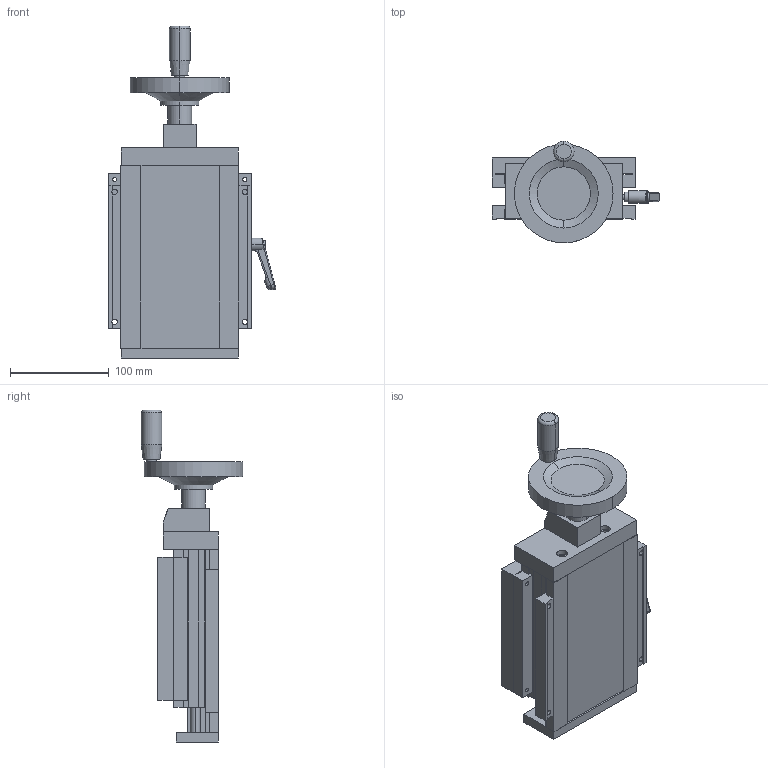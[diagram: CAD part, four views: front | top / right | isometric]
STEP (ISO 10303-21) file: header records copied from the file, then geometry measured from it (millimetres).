
FILE_DESCRIPTION (( 'STEP AP203' ), '1' );
FILE_NAME ('dL 120 digital Handrad.STEP', '2004-05-12T08:42:16', ( '' ), ( '' ), 'SwSTEP 2.0', 'SolidWorks 2003064', '' );
FILE_SCHEMA (( 'CONFIG_CONTROL_DESIGN' ));
Length unit declared in the file: millimetre
Products named in the file (7): dL 120 digital Handrad; Aussenteil dL 120_Standard; domiLINE 120 Basis_DA04 handrad; Klemmhebel_PDB_1009544; Befestigungsatz  dL 120_Standard; Klemmleiste dL 120_Standard; Montageplatte M120_Standard
Assembly tree (7 placements, depth 3):
  dL 120 digital Handrad
    Befestigungsatz  dL 120_Standard
      Klemmleiste dL 120_Standard  x2
    Montageplatte M120_Standard
    domiLINE 120 Basis_DA04 handrad
    Klemmhebel_PDB_1009544
    Aussenteil dL 120_Standard
Bounding box: 169.86 x 103 x 336.5 mm (x, y, z)
Volume: 1604604.2 mm3; surface area: 303879.3 mm2
Topology: 6 solids, 7 shells, 406 faces, 1072 edges, 706 vertices
Faces by surface type: plane 245, cylinder 122, bspline 25, cone 8, sphere 4, torus 2
Entity records: 18138 total; most frequent: CARTESIAN_POINT 7777, ORIENTED_EDGE 2024, DIRECTION 1936, EDGE_CURVE 1012, LINE 700, VECTOR 700, VERTEX_POINT 666, AXIS2_PLACEMENT_3D 618
